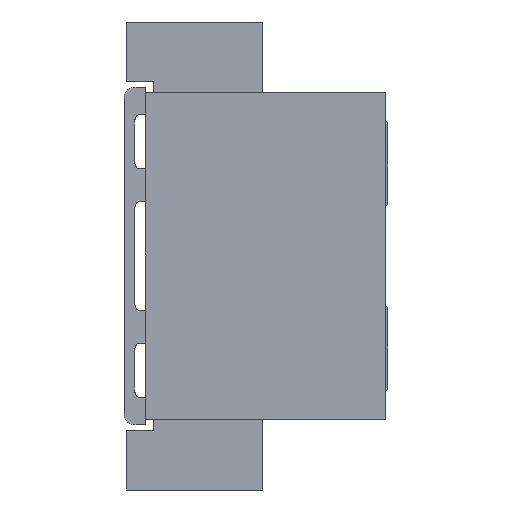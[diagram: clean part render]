
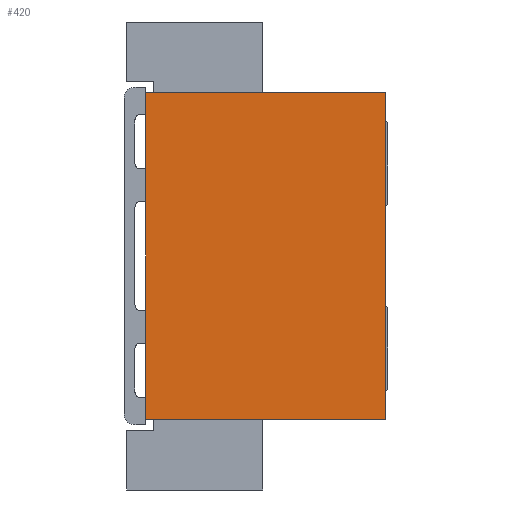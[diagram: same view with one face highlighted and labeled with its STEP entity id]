
A CAD part, left-side view. The second image highlights one B-rep face of the part: STEP entity #420.
In plain terms, the highlighted planar face has unit normal (-1, 0, 0).
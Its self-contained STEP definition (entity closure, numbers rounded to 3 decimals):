
#420 = ADVANCED_FACE( '', ( #1107 ), #1108, .F. );
#1107 = FACE_OUTER_BOUND( '', #2231, .T. );
#1108 = PLANE( '', #2232 );
#2231 = EDGE_LOOP( '', ( #4179, #4180, #4181, #4182 ) );
#2232 = AXIS2_PLACEMENT_3D( '', #4183, #4184, #4185 );
#4179 = ORIENTED_EDGE( '', *, *, #7480, .F. );
#4180 = ORIENTED_EDGE( '', *, *, #7481, .F. );
#4181 = ORIENTED_EDGE( '', *, *, #7482, .F. );
#4182 = ORIENTED_EDGE( '', *, *, #7476, .F. );
#4183 = CARTESIAN_POINT( '', ( -11., 0., 0. ) );
#4184 = DIRECTION( '', ( 1., 0., 0. ) );
#4185 = DIRECTION( '', ( 0., 0., -1. ) );
#7476 = EDGE_CURVE( '', #9018, #9019, #9020, .T. );
#7480 = EDGE_CURVE( '', #9026, #9018, #9027, .T. );
#7481 = EDGE_CURVE( '', #9028, #9026, #9029, .T. );
#7482 = EDGE_CURVE( '', #9019, #9028, #9030, .T. );
#9018 = VERTEX_POINT( '', #11376 );
#9019 = VERTEX_POINT( '', #11377 );
#9020 = LINE( '', #11378, #11379 );
#9026 = VERTEX_POINT( '', #11388 );
#9027 = LINE( '', #11389, #11390 );
#9028 = VERTEX_POINT( '', #11391 );
#9029 = LINE( '', #11392, #11393 );
#9030 = LINE( '', #11394, #11395 );
#11376 = CARTESIAN_POINT( '', ( -11., 21.5, -30. ) );
#11377 = CARTESIAN_POINT( '', ( -11., 21.5, 30. ) );
#11378 = CARTESIAN_POINT( '', ( -11., 21.5, -30. ) );
#11379 = VECTOR( '', #13954, 1. );
#11388 = CARTESIAN_POINT( '', ( -11., -22.5, -30. ) );
#11389 = CARTESIAN_POINT( '', ( -11., -22.5, -30. ) );
#11390 = VECTOR( '', #13958, 1. );
#11391 = CARTESIAN_POINT( '', ( -11., -22.5, 30. ) );
#11392 = CARTESIAN_POINT( '', ( -11., -22.5, 30. ) );
#11393 = VECTOR( '', #13959, 1. );
#11394 = CARTESIAN_POINT( '', ( -11., 21.5, 30. ) );
#11395 = VECTOR( '', #13960, 1. );
#13954 = DIRECTION( '', ( 0., 0., 1. ) );
#13958 = DIRECTION( '', ( 0., 1., 0. ) );
#13959 = DIRECTION( '', ( 0., 0., -1. ) );
#13960 = DIRECTION( '', ( 0., -1., 0. ) );
